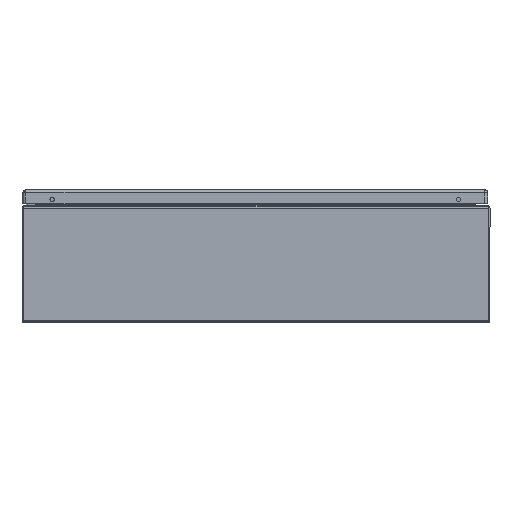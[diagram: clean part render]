
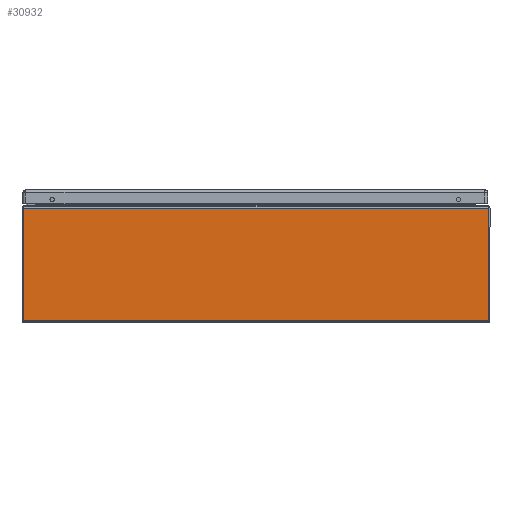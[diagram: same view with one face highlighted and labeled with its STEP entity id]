
A CAD part, front view. The second image highlights one B-rep face of the part: STEP entity #30932.
In plain terms, the highlighted planar face has unit normal (0, -1, 0).
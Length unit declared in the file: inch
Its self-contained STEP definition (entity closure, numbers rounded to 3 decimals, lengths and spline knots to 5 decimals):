
#1478 = EDGE_LOOP ( 'NONE', ( #25752, #25753, #25754, #25755 ) ) ;
#6424 = VERTEX_POINT ( 'NONE', #20495 ) ;
#6427 = VERTEX_POINT ( 'NONE', #20469 ) ;
#7055 = VERTEX_POINT ( 'NONE', #21230 ) ;
#7058 = VERTEX_POINT ( 'NONE', #21227 ) ;
#10805 = AXIS2_PLACEMENT_3D ( 'NONE', #12895, #12880, #12878 ) ;
#12878 = DIRECTION ( 'NONE',  ( 0., 0., -1. ) ) ;
#12880 = DIRECTION ( 'NONE',  ( 0., -1., 0. ) ) ;
#12885 = PLANE ( 'NONE',  #10805 ) ;
#12895 = CARTESIAN_POINT ( 'NONE',  ( -162., -15., 5.855 ) ) ;
#19937 = FACE_OUTER_BOUND ( 'NONE', #1478, .T. ) ;
#20196 = VECTOR ( 'NONE', #22828, 39.37008 ) ;
#20200 = LINE ( 'NONE', #22831, #20196 ) ;
#20261 = LINE ( 'NONE', #22661, #20265 ) ;
#20265 = VECTOR ( 'NONE', #22660, 39.37008 ) ;
#20283 = LINE ( 'NONE', #22635, #20284 ) ;
#20284 = VECTOR ( 'NONE', #22634, 39.37008 ) ;
#20291 = LINE ( 'NONE', #22627, #20292 ) ;
#20292 = VECTOR ( 'NONE', #22626, 39.37008 ) ;
#20469 = CARTESIAN_POINT ( 'NONE',  ( 11.93793, -15., 5.855 ) ) ;
#20495 = CARTESIAN_POINT ( 'NONE',  ( 11.93793, -15., 0.106 ) ) ;
#21227 = CARTESIAN_POINT ( 'NONE',  ( -11.93793, -15., 0.106 ) ) ;
#21230 = CARTESIAN_POINT ( 'NONE',  ( -11.93793, -15., 5.855 ) ) ;
#22626 = DIRECTION ( 'NONE',  ( 1., 0., 0. ) ) ;
#22627 = CARTESIAN_POINT ( 'NONE',  ( -162., -15., 0.106 ) ) ;
#22634 = DIRECTION ( 'NONE',  ( 1., 0., 0. ) ) ;
#22635 = CARTESIAN_POINT ( 'NONE',  ( -162., -15., 5.855 ) ) ;
#22660 = DIRECTION ( 'NONE',  ( 0., 0., 1. ) ) ;
#22661 = CARTESIAN_POINT ( 'NONE',  ( 11.93793, -15., 5.855 ) ) ;
#22828 = DIRECTION ( 'NONE',  ( 0., 0., -1. ) ) ;
#22831 = CARTESIAN_POINT ( 'NONE',  ( -11.93793, -15., 5.855 ) ) ;
#25752 = ORIENTED_EDGE ( 'NONE', *, *, #33632, .T. ) ;
#25753 = ORIENTED_EDGE ( 'NONE', *, *, #33642, .F. ) ;
#25754 = ORIENTED_EDGE ( 'NONE', *, *, #33589, .T. ) ;
#25755 = ORIENTED_EDGE ( 'NONE', *, *, #33646, .T. ) ;
#30932 = ADVANCED_FACE ( 'NONE', ( #19937 ), #12885, .T. ) ;
#33589 = EDGE_CURVE ( 'NONE', #7055, #7058, #20200, .T. ) ;
#33632 = EDGE_CURVE ( 'NONE', #6424, #6427, #20261, .T. ) ;
#33642 = EDGE_CURVE ( 'NONE', #7055, #6427, #20283, .T. ) ;
#33646 = EDGE_CURVE ( 'NONE', #7058, #6424, #20291, .T. ) ;
